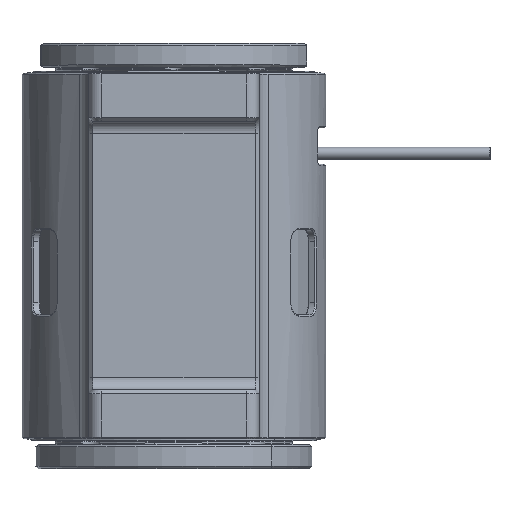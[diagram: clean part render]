
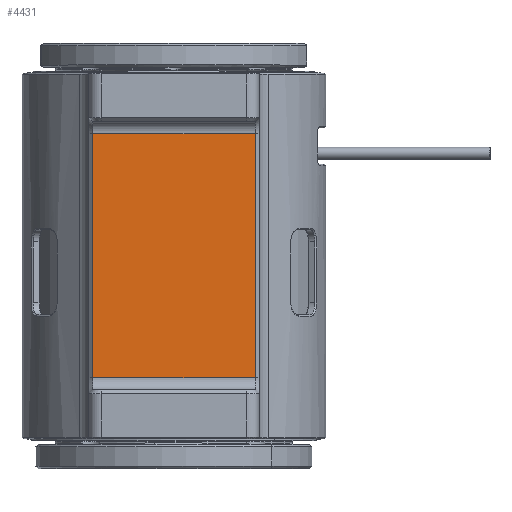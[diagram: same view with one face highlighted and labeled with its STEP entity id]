
A CAD part, top view. The second image highlights one B-rep face of the part: STEP entity #4431.
In plain terms, the highlighted planar face has unit normal (0, 0, 1).
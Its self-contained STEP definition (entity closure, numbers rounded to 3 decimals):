
#660=DIRECTION('',(-1.,0.,0.));
#661=VECTOR('',#660,13.4);
#662=CARTESIAN_POINT('',(6.7,25.1,15.));
#663=LINE('',#662,#661);
#668=DIRECTION('',(0.,1.,0.));
#669=VECTOR('',#668,20.1);
#670=CARTESIAN_POINT('',(6.7,5.,15.));
#671=LINE('',#670,#669);
#685=DIRECTION('',(1.,0.,0.));
#686=VECTOR('',#685,13.4);
#687=CARTESIAN_POINT('',(-6.7,5.,15.));
#688=LINE('',#687,#686);
#945=DIRECTION('',(0.,-1.,0.));
#946=VECTOR('',#945,20.1);
#947=CARTESIAN_POINT('',(-6.7,25.1,15.));
#948=LINE('',#947,#946);
#3390=CARTESIAN_POINT('',(6.7,25.1,15.));
#3391=VERTEX_POINT('',#3390);
#3392=CARTESIAN_POINT('',(-6.7,25.1,15.));
#3393=VERTEX_POINT('',#3392);
#3394=CARTESIAN_POINT('',(6.7,5.,15.));
#3395=VERTEX_POINT('',#3394);
#3396=CARTESIAN_POINT('',(-6.7,5.,15.));
#3397=VERTEX_POINT('',#3396);
#4417=CARTESIAN_POINT('',(-7.,0.,15.));
#4418=DIRECTION('',(0.,0.,1.));
#4419=DIRECTION('',(1.,0.,0.));
#4420=AXIS2_PLACEMENT_3D('',#4417,#4418,#4419);
#4421=PLANE('',#4420);
#4423=ORIENTED_EDGE('',*,*,#4422,.F.);
#4425=ORIENTED_EDGE('',*,*,#4424,.F.);
#4427=ORIENTED_EDGE('',*,*,#4426,.F.);
#4428=ORIENTED_EDGE('',*,*,#4409,.F.);
#4429=EDGE_LOOP('',(#4423,#4425,#4427,#4428));
#4430=FACE_OUTER_BOUND('',#4429,.F.);
#4431=ADVANCED_FACE('',(#4430),#4421,.T.);
#4409=EDGE_CURVE('',#3391,#3393,#663,.T.);
#4422=EDGE_CURVE('',#3395,#3391,#671,.T.);
#4424=EDGE_CURVE('',#3397,#3395,#688,.T.);
#4426=EDGE_CURVE('',#3393,#3397,#948,.T.);
